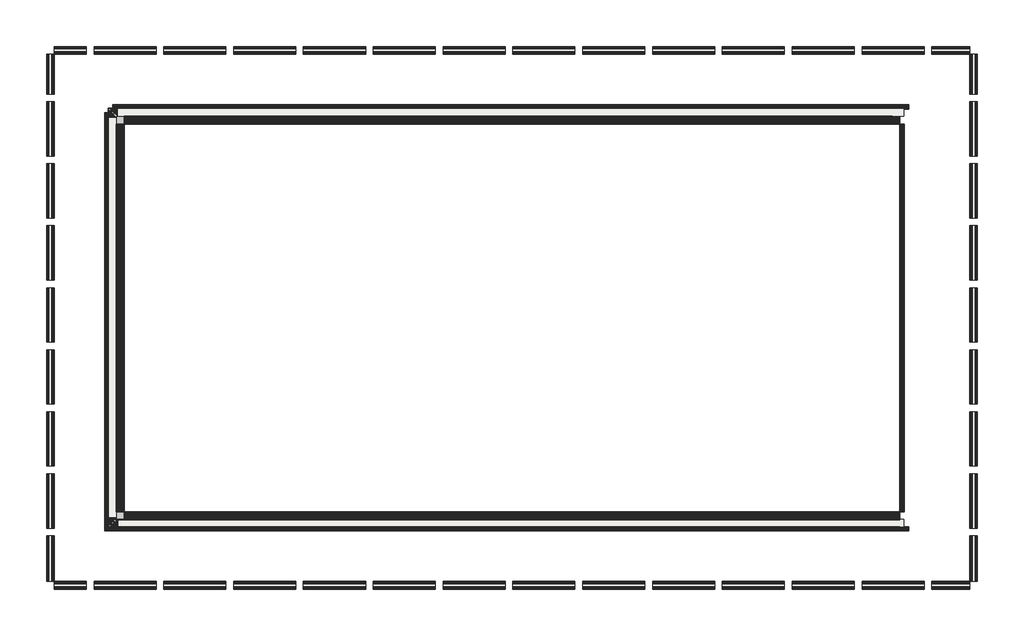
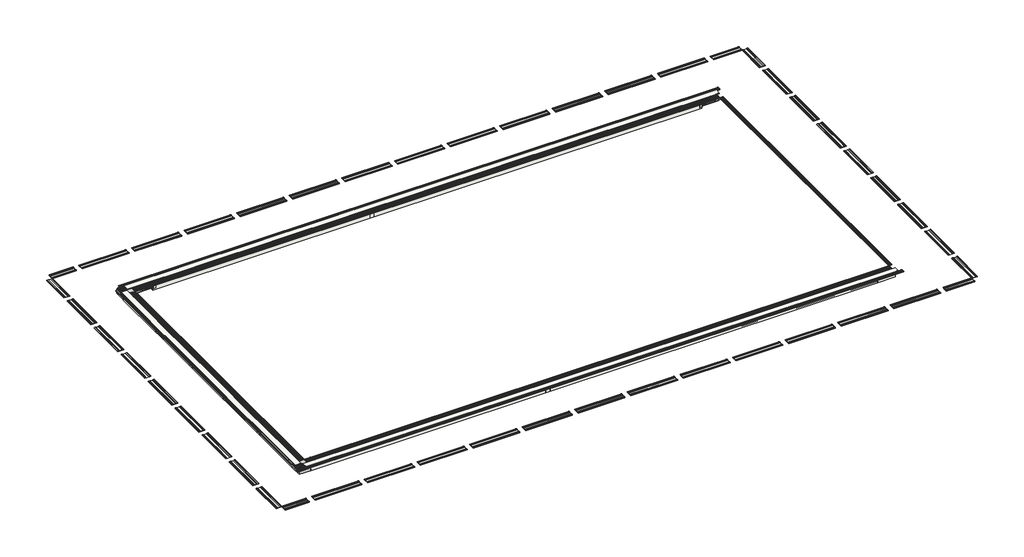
# One storey, incomplete: 90 slabs, 4 proxies, 1 wall.
"""IFC4 building model written with IfcOpenShell, lengths in millimetres."""

from ifc_helpers import new_model, si_unit, origin, place, context, project, spatial, transform, mapped, element, save
from components import bloque_rs_903_88942921, rejilla_245_e2_blanco_63b6c073, slab_5d975f14, slab_9dd5c64a, slab_b96c67a0, slab_85165e39, slab_fda458ed, slab_f72ae3bc, slab_7b5f9839, slab_f85bad20, slab_419fe0f5, slab_ef830f01, slab_a76cdf63, slab_26251be1, slab_fd03eb48, slab_de1c2f08, slab_c3a39430, slab_c57b6997, slab_c1fd4eab, bloque_rs_901_7b2d1af0, bloque_rs_901_6b5c8436, bloque_rs_901_a1e74918, bloque_rs_901_2c9cb21e, bloque_rs_901_685c77fb, bloque_rs_901_02d4d146, bloque_rs_901_d4c59469, bloque_rs_904_754e9b9e, bloque_rs_904_4dadfa85, bloque_rs_905_dbcc2ae5, bloque_rs_905_b3f01087, bloque_rs_905_97b4824b, pieza_035_aqua_azul_anti_slip_d3a0b70b, pieza_035_aqua_azul_anti_slip_5118b2d5, pieza_035_aqua_azul_anti_slip_5bffa563, pieza_035_aqua_azul_anti_slip_d555d483, pieza_035_aqua_azul_anti_slip_abb4f9d1, pieza_035_aqua_azul_anti_slip_982134b4, pieza_035_aqua_azul_anti_slip_ff070b21, pieza_035_aqua_azul_anti_slip_8805e9d7, pieza_216_aqua_azul_anti_slip_ab0e75ff, pieza_216_aqua_azul_anti_slip_05ee5f36, pieza_216_aqua_azul_anti_slip_e681261f, pieza_216_aqua_azul_anti_slip_625501cd, pieza_216_aqua_azul_anti_slip_bd8dcea7, pieza_216_aqua_azul_anti_slip_7a651725, pieza_216_aqua_azul_anti_slip_0b623ba6, pieza_216_aqua_azul_anti_slip_9a172c5e, pieza_216_aqua_azul_anti_slip_6dfd3447, rejilla_245_r2_blanco_6a6c3202, rejilla_245_r2_blanco_9ac73279, rejilla_245_r2_blanco_04bee66e, wall_3aab93d8

model = new_model("IFC4")

# Units and contexts
model_context = context("Model", 3, world=origin())
ifc_project = project(units=[si_unit("LENGTHUNIT", "METRE", prefix="MILLI")], contexts=[model_context])

# Site, building, storey
site = spatial("IfcSite", under=ifc_project)
building = spatial("IfcBuilding", under=site)
storey = spatial("IfcBuildingStorey", under=building, Name="2_N S9", Elevation=-229.4)

# Proxies
placement = place(None, origin())
bloque_rs_903_shape = bloque_rs_903_88942921(model_context)
element("IfcBuildingElementProxy", 1, Name="ROSA GRES_RS 903 : Bloque RS 903", ObjectType="ROSA GRES_RS 903 : Bloque RS 903", at=placement, inside=storey, context=model_context, shape_type="MappedRepresentation", body=[
    mapped(bloque_rs_903_shape, transform((7429.3982091, -25689.3970423, -229.4), x_axis=(0.0, 1.0, 0.0), y_axis=(-1.0, 0.0, 0.0), z_axis=(0.0, 0.0, 1.0))),
])
element("IfcBuildingElementProxy", 2, Name="ROSA GRES_RS 903 : Bloque RS 903", ObjectType="ROSA GRES_RS 903 : Bloque RS 903", at=placement, inside=storey, context=model_context, shape_type="MappedRepresentation", body=[
    mapped(bloque_rs_903_shape, transform((7429.3982091, -38189.4694962, -229.4), x_axis=(-1.0, 0.0, 0.0), y_axis=(0.0, -1.0, 0.0), z_axis=(0.0, 0.0, 1.0))),
])
rejilla_245_e2_blanco_shape = rejilla_245_e2_blanco_63b6c073(model_context)
element("IfcBuildingElementProxy", 3, Name="ROSA GRES_245 E2 : Rejilla 245 E2_Blanco", ObjectType="ROSA GRES_245 E2 : Rejilla 245 E2_Blanco", at=placement, inside=storey, context=model_context, shape_type="MappedRepresentation", body=[
    mapped(rejilla_245_e2_blanco_shape, transform((7177.3435564, -38441.5241489, -229.4), x_axis=(-1.0, 0.0, 0.0), y_axis=(0.0, -1.0, 0.0), z_axis=(0.0, 0.0, 1.0))),
])
element("IfcBuildingElementProxy", 4, Name="ROSA GRES_245 E2 : Rejilla 245 E2_Blanco", ObjectType="ROSA GRES_245 E2 : Rejilla 245 E2_Blanco", at=placement, inside=storey, context=model_context, shape_type="MappedRepresentation", body=[
    mapped(rejilla_245_e2_blanco_shape, transform((7177.3435564, -25437.3423895, -229.4), x_axis=(0.0, 1.0, 0.0), y_axis=(-1.0, 0.0, 0.0), z_axis=(0.0, 0.0, 1.0))),
])

# Slabs
slab_shape = slab_5d975f14(model_context)
element("IfcSlab", 5, ObjectType="ROSA GRES_013 : Pieza 013_Aqua_Marino_Liso", at=placement, inside=storey, context=model_context, shape_type="MappedRepresentation", body=[
    mapped(slab_shape, transform((8178.6514198, -25681.4332692, -162.4), x_axis=(0.0, 0.0, 1.0), y_axis=(-1.0, 0.0, 0.0), z_axis=(0.0, -1.0, 0.0))),
])
element("IfcSlab", 6, ObjectType="ROSA GRES_013 : Pieza 013_Aqua_Marino_Liso", at=placement, inside=storey, context=model_context, shape_type="MappedRepresentation", body=[
    mapped(slab_shape, transform((31680.2174523, -25681.4332692, -37.4), x_axis=(0.0, 0.0, -1.0), y_axis=(1.0, 0.0, 0.0), z_axis=(0.0, -1.0, 0.0))),
])
slab_2_shape = slab_9dd5c64a(model_context)
element("IfcSlab", 7, ObjectType="ROSA GRES_013 : Pieza 013_Aqua_Marino_Liso", at=placement, inside=storey, context=model_context, shape_type="MappedRepresentation", body=[
    mapped(slab_2_shape, transform((31680.2174523, -25676.2845423, -102.4133834), x_axis=(1.0, 0.0, 0.0), y_axis=(0.0, 2.08080350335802e-12, 1.0), z_axis=(0.0, -1.0, 2.08080350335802e-12))),
])
slab_3_shape = slab_b96c67a0(model_context)
element("IfcSlab", 8, ObjectType="ROSA GRES_013 : Pieza 013_Aqua_Marino_Liso", at=placement, inside=storey, context=model_context, shape_type="MappedRepresentation", body=[
    mapped(slab_3_shape, transform((31680.2174523, -38197.4332692, -37.4), x_axis=(0.0, 0.0, -1.0), y_axis=(-1.0, 0.0, 0.0), z_axis=(0.0, 1.0, 0.0))),
])
slab_4_shape = slab_85165e39(model_context)
element("IfcSlab", 9, ObjectType="ROSA GRES_013 : Pieza 013_Aqua_Marino_Liso", at=placement, inside=storey, context=model_context, shape_type="MappedRepresentation", body=[
    mapped(slab_4_shape, transform((32429.434436, -38202.2694962, -101.5), x_axis=(-1.0, 0.0, 0.0), y_axis=(0.0, -2.080803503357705e-12, 1.0), z_axis=(0.0, 1.0, 2.080803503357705e-12))),
])
slab_5_shape = slab_fda458ed(model_context)
element("IfcSlab", 10, ObjectType="ROSA GRES_204 : Pieza 204_Indugres_Indubeige_Tecno", at=placement, inside=storey, context=model_context, shape_type="MappedRepresentation", body=[
    mapped(slab_5_shape, transform((17709.4610246, -23437.5814211, -24.5), x_axis=(1.0, 0.0, 0.0), y_axis=(0.0, 1.0, 0.0), z_axis=(0.0, 0.0, 1.0))),
])
element("IfcSlab", 11, ObjectType="ROSA GRES_204 : Pieza 204_Indugres_Indubeige_Tecno", at=placement, inside=storey, context=model_context, shape_type="MappedRepresentation", body=[
    mapped(slab_5_shape, transform((15459.4610246, -23437.5814211, -24.5), x_axis=(1.0, 0.0, 0.0), y_axis=(0.0, 1.0, 0.0), z_axis=(0.0, 0.0, 1.0))),
])
element("IfcSlab", 12, ObjectType="ROSA GRES_204 : Pieza 204_Indugres_Indubeige_Tecno", at=placement, inside=storey, context=model_context, shape_type="MappedRepresentation", body=[
    mapped(slab_5_shape, transform((13209.4610246, -23437.5814211, -24.5), x_axis=(1.0, 0.0, 0.0), y_axis=(0.0, 1.0, 0.0), z_axis=(0.0, 0.0, 1.0))),
])
element("IfcSlab", 13, ObjectType="ROSA GRES_204 : Pieza 204_Indugres_Indubeige_Tecno", at=placement, inside=storey, context=model_context, shape_type="MappedRepresentation", body=[
    mapped(slab_5_shape, transform((10959.4610246, -23437.5814211, -24.5), x_axis=(1.0, 0.0, 0.0), y_axis=(0.0, 1.0, 0.0), z_axis=(0.0, 0.0, 1.0))),
])
element("IfcSlab", 14, ObjectType="ROSA GRES_204 : Pieza 204_Indugres_Indubeige_Tecno", at=placement, inside=storey, context=model_context, shape_type="MappedRepresentation", body=[
    mapped(slab_5_shape, transform((8709.4610246, -23437.5814211, -24.5), x_axis=(1.0, 0.0, 0.0), y_axis=(0.0, 1.0, 0.0), z_axis=(0.0, 0.0, 1.0))),
])
element("IfcSlab", 15, ObjectType="ROSA GRES_204 : Pieza 204_Indugres_Indubeige_Tecno", at=placement, inside=storey, context=model_context, shape_type="MappedRepresentation", body=[
    mapped(slab_5_shape, transform((6459.4610246, -23437.5814211, -24.5), x_axis=(1.0, 0.0, 0.0), y_axis=(0.0, 1.0, 0.0), z_axis=(0.0, 0.0, 1.0))),
])
element("IfcSlab", 16, ObjectType="ROSA GRES_204 : Pieza 204_Indugres_Indubeige_Tecno", at=placement, inside=storey, context=model_context, shape_type="MappedRepresentation", body=[
    mapped(slab_5_shape, transform((21959.4610246, -40441.2851174, -24.5), x_axis=(-1.0, 0.0, 0.0), y_axis=(0.0, -1.0, 0.0), z_axis=(0.0, 0.0, 1.0))),
])
element("IfcSlab", 17, ObjectType="ROSA GRES_204 : Pieza 204_Indugres_Indubeige_Tecno", at=placement, inside=storey, context=model_context, shape_type="MappedRepresentation", body=[
    mapped(slab_5_shape, transform((24209.4610246, -40441.2851174, -24.5), x_axis=(-1.0, 0.0, 0.0), y_axis=(0.0, -1.0, 0.0), z_axis=(0.0, 0.0, 1.0))),
])
element("IfcSlab", 18, ObjectType="ROSA GRES_204 : Pieza 204_Indugres_Indubeige_Tecno", at=placement, inside=storey, context=model_context, shape_type="MappedRepresentation", body=[
    mapped(slab_5_shape, transform((26459.4610246, -40441.2851174, -24.5), x_axis=(-1.0, 0.0, 0.0), y_axis=(0.0, -1.0, 0.0), z_axis=(0.0, 0.0, 1.0))),
])
element("IfcSlab", 19, ObjectType="ROSA GRES_204 : Pieza 204_Indugres_Indubeige_Tecno", at=placement, inside=storey, context=model_context, shape_type="MappedRepresentation", body=[
    mapped(slab_5_shape, transform((28709.4610246, -40441.2851174, -24.5), x_axis=(-1.0, 0.0, 0.0), y_axis=(0.0, -1.0, 0.0), z_axis=(0.0, 0.0, 1.0))),
])
element("IfcSlab", 20, ObjectType="ROSA GRES_204 : Pieza 204_Indugres_Indubeige_Tecno", at=placement, inside=storey, context=model_context, shape_type="MappedRepresentation", body=[
    mapped(slab_5_shape, transform((30959.4610246, -40441.2851174, -24.5), x_axis=(-1.0, 0.0, 0.0), y_axis=(0.0, -1.0, 0.0), z_axis=(0.0, 0.0, 1.0))),
])
element("IfcSlab", 21, ObjectType="ROSA GRES_204 : Pieza 204_Indugres_Indubeige_Tecno", at=placement, inside=storey, context=model_context, shape_type="MappedRepresentation", body=[
    mapped(slab_5_shape, transform((33209.4610246, -40441.2851174, -24.5), x_axis=(-1.0, 0.0, 0.0), y_axis=(0.0, -1.0, 0.0), z_axis=(0.0, 0.0, 1.0))),
])
slab_6_shape = slab_f72ae3bc(model_context)
element("IfcSlab", 22, ObjectType="ROSA GRES_204 : Pieza 204_Indugres_Indubeige_Tecno", at=placement, inside=storey, context=model_context, shape_type="MappedRepresentation", body=[
    mapped(slab_6_shape, transform((6209.4610246, -23437.5814211, -24.5), x_axis=(-1.0, 0.0, 0.0), y_axis=(0.0, -1.0, 0.0), z_axis=(0.0, 0.0, 1.0))),
])
slab_7_shape = slab_7b5f9839(model_context)
element("IfcSlab", 23, ObjectType="ROSA GRES_204 : Pieza 204_Indugres_Indubeige_Tecno", at=placement, inside=storey, context=model_context, shape_type="MappedRepresentation", body=[
    mapped(slab_7_shape, transform((21959.4610246, -23437.5814211, -24.5), x_axis=(-1.0, 0.0, 0.0), y_axis=(0.0, -1.0, 0.0), z_axis=(0.0, 0.0, 1.0))),
])
element("IfcSlab", 24, ObjectType="ROSA GRES_204 : Pieza 204_Indugres_Indubeige_Tecno", at=placement, inside=storey, context=model_context, shape_type="MappedRepresentation", body=[
    mapped(slab_7_shape, transform((24209.4610246, -23437.5814211, -24.5), x_axis=(-1.0, 0.0, 0.0), y_axis=(0.0, -1.0, 0.0), z_axis=(0.0, 0.0, 1.0))),
])
element("IfcSlab", 25, ObjectType="ROSA GRES_204 : Pieza 204_Indugres_Indubeige_Tecno", at=placement, inside=storey, context=model_context, shape_type="MappedRepresentation", body=[
    mapped(slab_7_shape, transform((26459.4610246, -23437.5814211, -24.5), x_axis=(-1.0, 0.0, 0.0), y_axis=(0.0, -1.0, 0.0), z_axis=(0.0, 0.0, 1.0))),
])
element("IfcSlab", 26, ObjectType="ROSA GRES_204 : Pieza 204_Indugres_Indubeige_Tecno", at=placement, inside=storey, context=model_context, shape_type="MappedRepresentation", body=[
    mapped(slab_7_shape, transform((28709.4610246, -23437.5814211, -24.5), x_axis=(-1.0, 0.0, 0.0), y_axis=(0.0, -1.0, 0.0), z_axis=(0.0, 0.0, 1.0))),
])
element("IfcSlab", 27, ObjectType="ROSA GRES_204 : Pieza 204_Indugres_Indubeige_Tecno", at=placement, inside=storey, context=model_context, shape_type="MappedRepresentation", body=[
    mapped(slab_7_shape, transform((30959.4610246, -23437.5814211, -24.5), x_axis=(-1.0, 0.0, 0.0), y_axis=(0.0, -1.0, 0.0), z_axis=(0.0, 0.0, 1.0))),
])
element("IfcSlab", 28, ObjectType="ROSA GRES_204 : Pieza 204_Indugres_Indubeige_Tecno", at=placement, inside=storey, context=model_context, shape_type="MappedRepresentation", body=[
    mapped(slab_7_shape, transform((33209.4610246, -23437.5814211, -24.5), x_axis=(-1.0, 0.0, 0.0), y_axis=(0.0, -1.0, 0.0), z_axis=(0.0, 0.0, 1.0))),
])
element("IfcSlab", 29, ObjectType="ROSA GRES_204 : Pieza 204_Indugres_Indubeige_Tecno", at=placement, inside=storey, context=model_context, shape_type="MappedRepresentation", body=[
    mapped(slab_7_shape, transform((17709.4610246, -40441.2851174, -24.5), x_axis=(1.0, 0.0, 0.0), y_axis=(0.0, 1.0, 0.0), z_axis=(0.0, 0.0, 1.0))),
])
element("IfcSlab", 30, ObjectType="ROSA GRES_204 : Pieza 204_Indugres_Indubeige_Tecno", at=placement, inside=storey, context=model_context, shape_type="MappedRepresentation", body=[
    mapped(slab_7_shape, transform((15459.4610246, -40441.2851174, -24.5), x_axis=(1.0, 0.0, 0.0), y_axis=(0.0, 1.0, 0.0), z_axis=(0.0, 0.0, 1.0))),
])
element("IfcSlab", 31, ObjectType="ROSA GRES_204 : Pieza 204_Indugres_Indubeige_Tecno", at=placement, inside=storey, context=model_context, shape_type="MappedRepresentation", body=[
    mapped(slab_7_shape, transform((13209.4610246, -40441.2851174, -24.5), x_axis=(1.0, 0.0, 0.0), y_axis=(0.0, 1.0, 0.0), z_axis=(0.0, 0.0, 1.0))),
])
element("IfcSlab", 32, ObjectType="ROSA GRES_204 : Pieza 204_Indugres_Indubeige_Tecno", at=placement, inside=storey, context=model_context, shape_type="MappedRepresentation", body=[
    mapped(slab_7_shape, transform((10959.4610246, -40441.2851174, -24.5), x_axis=(1.0, 0.0, 0.0), y_axis=(0.0, 1.0, 0.0), z_axis=(0.0, 0.0, 1.0))),
])
element("IfcSlab", 33, ObjectType="ROSA GRES_204 : Pieza 204_Indugres_Indubeige_Tecno", at=placement, inside=storey, context=model_context, shape_type="MappedRepresentation", body=[
    mapped(slab_7_shape, transform((8709.4610246, -40441.2851174, -24.5), x_axis=(1.0, 0.0, 0.0), y_axis=(0.0, 1.0, 0.0), z_axis=(0.0, 0.0, 1.0))),
])
element("IfcSlab", 34, ObjectType="ROSA GRES_204 : Pieza 204_Indugres_Indubeige_Tecno", at=placement, inside=storey, context=model_context, shape_type="MappedRepresentation", body=[
    mapped(slab_7_shape, transform((6459.4610246, -40441.2851174, -24.5), x_axis=(1.0, 0.0, 0.0), y_axis=(0.0, 1.0, 0.0), z_axis=(0.0, 0.0, 1.0))),
])
slab_8_shape = slab_f85bad20(model_context)
element("IfcSlab", 35, ObjectType="ROSA GRES_204 : Pieza 204_Indugres_Indubeige_Tecno", at=placement, inside=storey, context=model_context, shape_type="MappedRepresentation", body=[
    mapped(slab_8_shape, transform((6209.4610246, -40441.2851174, -24.5), x_axis=(-1.0, 0.0, 0.0), y_axis=(0.0, -1.0, 0.0), z_axis=(0.0, 0.0, 1.0))),
])
slab_9_shape = slab_419fe0f5(model_context)
element("IfcSlab", 36, ObjectType="ROSA GRES_204 : Pieza 204_Indugres_Indubeige_Tecno", at=placement, inside=storey, context=model_context, shape_type="MappedRepresentation", body=[
    mapped(slab_9_shape, transform((33459.4610246, -23437.5814211, -24.5), x_axis=(1.0, 0.0, 0.0), y_axis=(0.0, 1.0, 0.0), z_axis=(0.0, 0.0, 1.0))),
])
slab_10_shape = slab_ef830f01(model_context)
element("IfcSlab", 37, ObjectType="ROSA GRES_204 : Pieza 204_Indugres_Indubeige_Tecno", at=placement, inside=storey, context=model_context, shape_type="MappedRepresentation", body=[
    mapped(slab_10_shape, transform((33459.4610246, -40441.2851174, -24.5), x_axis=(1.0, 0.0, 0.0), y_axis=(0.0, 1.0, 0.0), z_axis=(0.0, 0.0, 1.0))),
])
slab_11_shape = slab_a76cdf63(model_context)
element("IfcSlab", 38, ObjectType="ROSA GRES_204 : Pieza 204_Indugres_Indubeige_Tecno", at=placement, inside=storey, context=model_context, shape_type="MappedRepresentation", body=[
    mapped(slab_11_shape, transform((34679.434436, -30969.4598578, -24.5), x_axis=(0.0, -1.0, 0.0), y_axis=(1.0, 0.0, 0.0), z_axis=(0.0, 0.0, 1.0))),
])
element("IfcSlab", 39, ObjectType="ROSA GRES_204 : Pieza 204_Indugres_Indubeige_Tecno", at=placement, inside=storey, context=model_context, shape_type="MappedRepresentation", body=[
    mapped(slab_11_shape, transform((34679.434436, -32969.4598578, -24.5), x_axis=(0.0, -1.0, 0.0), y_axis=(1.0, 0.0, 0.0), z_axis=(0.0, 0.0, 1.0))),
])
element("IfcSlab", 40, ObjectType="ROSA GRES_204 : Pieza 204_Indugres_Indubeige_Tecno", at=placement, inside=storey, context=model_context, shape_type="MappedRepresentation", body=[
    mapped(slab_11_shape, transform((34679.434436, -34969.4598578, -24.5), x_axis=(0.0, -1.0, 0.0), y_axis=(1.0, 0.0, 0.0), z_axis=(0.0, 0.0, 1.0))),
])
element("IfcSlab", 41, ObjectType="ROSA GRES_204 : Pieza 204_Indugres_Indubeige_Tecno", at=placement, inside=storey, context=model_context, shape_type="MappedRepresentation", body=[
    mapped(slab_11_shape, transform((34679.434436, -36969.4598578, -24.5), x_axis=(0.0, -1.0, 0.0), y_axis=(1.0, 0.0, 0.0), z_axis=(0.0, 0.0, 1.0))),
])
element("IfcSlab", 42, ObjectType="ROSA GRES_204 : Pieza 204_Indugres_Indubeige_Tecno", at=placement, inside=storey, context=model_context, shape_type="MappedRepresentation", body=[
    mapped(slab_11_shape, transform((5179.434436, -30719.4598578, -24.5), x_axis=(0.0, 1.0, 0.0), y_axis=(-1.0, 0.0, 0.0), z_axis=(0.0, 0.0, 1.0))),
])
element("IfcSlab", 43, ObjectType="ROSA GRES_204 : Pieza 204_Indugres_Indubeige_Tecno", at=placement, inside=storey, context=model_context, shape_type="MappedRepresentation", body=[
    mapped(slab_11_shape, transform((5179.434436, -28719.4598578, -24.5), x_axis=(0.0, 1.0, 0.0), y_axis=(-1.0, 0.0, 0.0), z_axis=(0.0, 0.0, 1.0))),
])
element("IfcSlab", 44, ObjectType="ROSA GRES_204 : Pieza 204_Indugres_Indubeige_Tecno", at=placement, inside=storey, context=model_context, shape_type="MappedRepresentation", body=[
    mapped(slab_11_shape, transform((5179.434436, -26719.4598578, -24.5), x_axis=(0.0, 1.0, 0.0), y_axis=(-1.0, 0.0, 0.0), z_axis=(0.0, 0.0, 1.0))),
])
slab_12_shape = slab_26251be1(model_context)
element("IfcSlab", 45, ObjectType="ROSA GRES_204 : Pieza 204_Indugres_Indubeige_Tecno", at=placement, inside=storey, context=model_context, shape_type="MappedRepresentation", body=[
    mapped(slab_12_shape, transform((34679.434436, -30719.4598578, -24.5), x_axis=(0.0, 1.0, 0.0), y_axis=(-1.0, 0.0, 0.0), z_axis=(0.0, 0.0, 1.0))),
])
element("IfcSlab", 46, ObjectType="ROSA GRES_204 : Pieza 204_Indugres_Indubeige_Tecno", at=placement, inside=storey, context=model_context, shape_type="MappedRepresentation", body=[
    mapped(slab_12_shape, transform((34679.434436, -28719.4598578, -24.5), x_axis=(0.0, 1.0, 0.0), y_axis=(-1.0, 0.0, 0.0), z_axis=(0.0, 0.0, 1.0))),
])
element("IfcSlab", 47, ObjectType="ROSA GRES_204 : Pieza 204_Indugres_Indubeige_Tecno", at=placement, inside=storey, context=model_context, shape_type="MappedRepresentation", body=[
    mapped(slab_12_shape, transform((34679.434436, -26719.4598578, -24.5), x_axis=(0.0, 1.0, 0.0), y_axis=(-1.0, 0.0, 0.0), z_axis=(0.0, 0.0, 1.0))),
])
element("IfcSlab", 48, ObjectType="ROSA GRES_204 : Pieza 204_Indugres_Indubeige_Tecno", at=placement, inside=storey, context=model_context, shape_type="MappedRepresentation", body=[
    mapped(slab_12_shape, transform((5179.434436, -30969.4598578, -24.5), x_axis=(0.0, -1.0, 0.0), y_axis=(1.0, 0.0, 0.0), z_axis=(0.0, 0.0, 1.0))),
])
element("IfcSlab", 49, ObjectType="ROSA GRES_204 : Pieza 204_Indugres_Indubeige_Tecno", at=placement, inside=storey, context=model_context, shape_type="MappedRepresentation", body=[
    mapped(slab_12_shape, transform((5179.434436, -32969.4598578, -24.5), x_axis=(0.0, -1.0, 0.0), y_axis=(1.0, 0.0, 0.0), z_axis=(0.0, 0.0, 1.0))),
])
element("IfcSlab", 50, ObjectType="ROSA GRES_204 : Pieza 204_Indugres_Indubeige_Tecno", at=placement, inside=storey, context=model_context, shape_type="MappedRepresentation", body=[
    mapped(slab_12_shape, transform((5179.434436, -34969.4598578, -24.5), x_axis=(0.0, -1.0, 0.0), y_axis=(1.0, 0.0, 0.0), z_axis=(0.0, 0.0, 1.0))),
])
element("IfcSlab", 51, ObjectType="ROSA GRES_204 : Pieza 204_Indugres_Indubeige_Tecno", at=placement, inside=storey, context=model_context, shape_type="MappedRepresentation", body=[
    mapped(slab_12_shape, transform((5179.434436, -36969.4598578, -24.5), x_axis=(0.0, -1.0, 0.0), y_axis=(1.0, 0.0, 0.0), z_axis=(0.0, 0.0, 1.0))),
])
slab_13_shape = slab_fd03eb48(model_context)
element("IfcSlab", 52, ObjectType="ROSA GRES_013 : Pieza 013_Aqua_Marino_Liso", at=placement, inside=storey, context=model_context, shape_type="MappedRepresentation", body=[
    mapped(slab_13_shape, transform((7429.612996, -25676.5970423, -101.5360103), x_axis=(1.0, 0.0, 0.0), y_axis=(0.0, 2.08080350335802e-12, 1.0), z_axis=(0.0, -1.0, 2.08080350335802e-12))),
])
slab_14_shape = slab_de1c2f08(model_context)
element("IfcSlab", 53, ObjectType="ROSA GRES_204 : Pieza 204_Indugres_Indubeige_Tecno", at=placement, inside=storey, context=model_context, shape_type="MappedRepresentation", body=[
    mapped(slab_14_shape, transform((34679.434436, -38969.4598578, -24.5), x_axis=(0.0, -1.0, 0.0), y_axis=(1.0, 0.0, 0.0), z_axis=(0.0, 0.0, 1.0))),
])
slab_15_shape = slab_c3a39430(model_context)
element("IfcSlab", 54, ObjectType="ROSA GRES_204 : Pieza 204_Indugres_Indubeige_Tecno", at=placement, inside=storey, context=model_context, shape_type="MappedRepresentation", body=[
    mapped(slab_15_shape, transform((5179.434436, -38969.4598578, -24.5), x_axis=(0.0, -1.0, 0.0), y_axis=(1.0, 0.0, 0.0), z_axis=(0.0, 0.0, 1.0))),
])
slab_16_shape = slab_c57b6997(model_context)
element("IfcSlab", 55, ObjectType="ROSA GRES_204 : Pieza 204_Indugres_Indubeige_Tecno", at=placement, inside=storey, context=model_context, shape_type="MappedRepresentation", body=[
    mapped(slab_16_shape, transform((5179.434436, -24719.4598578, -24.5), x_axis=(0.0, 1.0, 0.0), y_axis=(-1.0, 0.0, 0.0), z_axis=(0.0, 0.0, 1.0))),
])
slab_17_shape = slab_c1fd4eab(model_context)
element("IfcSlab", 56, ObjectType="ROSA GRES_204 : Pieza 204_Indugres_Indubeige_Tecno", at=placement, inside=storey, context=model_context, shape_type="MappedRepresentation", body=[
    mapped(slab_17_shape, transform((34679.434436, -24719.4598578, -24.5), x_axis=(0.0, 1.0, 0.0), y_axis=(-1.0, 0.0, 0.0), z_axis=(0.0, 0.0, 1.0))),
])
bloque_rs_901_shape = bloque_rs_901_7b2d1af0(model_context)
element("IfcSlab", 57, ObjectType="ROSA GRES_RS 901 : Bloque_RS 901", at=placement, inside=storey, context=model_context, shape_type="MappedRepresentation", body=[
    mapped(bloque_rs_901_shape, transform((7429.434436, -28286.9332692, -229.4), x_axis=(0.0, -1.0, 0.0), y_axis=(1.0, 0.0, 0.0), z_axis=(0.0, 0.0, 1.0))),
])
element("IfcSlab", 58, ObjectType="ROSA GRES_RS 901 : Bloque_RS 901", at=placement, inside=storey, context=model_context, shape_type="MappedRepresentation", body=[
    mapped(bloque_rs_901_shape, transform((7429.434436, -30786.9332692, -229.4), x_axis=(0.0, -1.0, 0.0), y_axis=(1.0, 0.0, 0.0), z_axis=(0.0, 0.0, 1.0))),
])
element("IfcSlab", 59, ObjectType="ROSA GRES_RS 901 : Bloque_RS 901", at=placement, inside=storey, context=model_context, shape_type="MappedRepresentation", body=[
    mapped(bloque_rs_901_shape, transform((7429.434436, -33286.9332692, -229.4), x_axis=(0.0, -1.0, 0.0), y_axis=(1.0, 0.0, 0.0), z_axis=(0.0, 0.0, 1.0))),
])
bloque_rs_901_2_shape = bloque_rs_901_6b5c8436(model_context)
element("IfcSlab", 60, ObjectType="ROSA GRES_RS 901 : Bloque_RS 901", at=placement, inside=storey, context=model_context, shape_type="MappedRepresentation", body=[
    mapped(bloque_rs_901_2_shape, transform((7429.434436, -35786.9332692, -229.4), x_axis=(0.0, -1.0, 0.0), y_axis=(1.0, 0.0, 0.0), z_axis=(0.0, 0.0, 1.0))),
])
bloque_rs_901_3_shape = bloque_rs_901_a1e74918(model_context)
element("IfcSlab", 61, ObjectType="ROSA GRES_RS 901 : Bloque_RS 901", at=placement, inside=storey, context=model_context, shape_type="MappedRepresentation", body=[
    mapped(bloque_rs_901_3_shape, transform((7429.434436, -28091.9332692, -229.4), x_axis=(0.0, 1.0, 0.0), y_axis=(-1.0, 0.0, 0.0), z_axis=(0.0, 0.0, 1.0))),
])
bloque_rs_901_4_shape = bloque_rs_901_2c9cb21e(model_context)
element("IfcSlab", 62, ObjectType="ROSA GRES_RS 901 : Bloque_RS 901", at=placement, inside=storey, context=model_context, shape_type="MappedRepresentation", body=[
    mapped(bloque_rs_901_4_shape, transform((8189.4078475, -25689.4332692, -229.4), x_axis=(1.0, 0.0, 0.0), y_axis=(0.0, 1.0, 0.0), z_axis=(0.0, 0.0, 1.0))),
])
bloque_rs_901_5_shape = bloque_rs_901_685c77fb(model_context)
element("IfcSlab", 63, ObjectType="ROSA GRES_RS 901 : Bloque_RS 901", at=placement, inside=storey, context=model_context, shape_type="MappedRepresentation", body=[
    mapped(bloque_rs_901_5_shape, transform((17659.4790429, -25689.4332692, -229.4), x_axis=(1.0, 0.0, 0.0), y_axis=(0.0, 1.0, 0.0), z_axis=(0.0, 0.0, 1.0))),
])
bloque_rs_901_6_shape = bloque_rs_901_02d4d146(model_context)
element("IfcSlab", 64, ObjectType="ROSA GRES_RS 901 : Bloque_RS 901", at=placement, inside=storey, context=model_context, shape_type="MappedRepresentation", body=[
    mapped(bloque_rs_901_6_shape, transform((7429.434436, -38189.4332692, -229.4), x_axis=(1.0, 0.0, 0.0), y_axis=(0.0, 1.0, 0.0), z_axis=(0.0, 0.0, 1.0))),
])
bloque_rs_901_7_shape = bloque_rs_901_d4c59469(model_context)
element("IfcSlab", 65, ObjectType="ROSA GRES_RS 901 : Bloque_RS 901", at=placement, inside=storey, context=model_context, shape_type="MappedRepresentation", body=[
    mapped(bloque_rs_901_7_shape, transform((17659.4790429, -38189.4332692, -229.4), x_axis=(1.0, 0.0, 0.0), y_axis=(0.0, 1.0, 0.0), z_axis=(0.0, 0.0, 1.0))),
])
bloque_rs_904_shape = bloque_rs_904_754e9b9e(model_context)
element("IfcSlab", 66, ObjectType="ROSA GRES_RS 904 : Bloque_RS 904", at=placement, inside=storey, context=model_context, shape_type="MappedRepresentation", body=[
    mapped(bloque_rs_904_shape, transform((7429.434436, -28091.9332692, -229.4), x_axis=(0.0, -1.0, 0.0), y_axis=(1.0, 0.0, 0.0), z_axis=(0.0, 0.0, 1.0))),
])
element("IfcSlab", 67, ObjectType="ROSA GRES_RS 904 : Bloque_RS 904", at=placement, inside=storey, context=model_context, shape_type="MappedRepresentation", body=[
    mapped(bloque_rs_904_shape, transform((7429.434436, -30591.9332692, -229.4), x_axis=(0.0, -1.0, 0.0), y_axis=(1.0, 0.0, 0.0), z_axis=(0.0, 0.0, 1.0))),
])
element("IfcSlab", 68, ObjectType="ROSA GRES_RS 904 : Bloque_RS 904", at=placement, inside=storey, context=model_context, shape_type="MappedRepresentation", body=[
    mapped(bloque_rs_904_shape, transform((7429.434436, -33091.9332692, -229.4), x_axis=(0.0, -1.0, 0.0), y_axis=(1.0, 0.0, 0.0), z_axis=(0.0, 0.0, 1.0))),
])
element("IfcSlab", 69, ObjectType="ROSA GRES_RS 904 : Bloque_RS 904", at=placement, inside=storey, context=model_context, shape_type="MappedRepresentation", body=[
    mapped(bloque_rs_904_shape, transform((7429.434436, -35591.9332692, -229.4), x_axis=(0.0, -1.0, 0.0), y_axis=(1.0, 0.0, 0.0), z_axis=(0.0, 0.0, 1.0))),
])
element("IfcSlab", 70, ObjectType="ROSA GRES_RS 904 : Bloque_RS 904", at=placement, inside=storey, context=model_context, shape_type="MappedRepresentation", body=[
    mapped(bloque_rs_904_shape, transform((17659.4790429, -25689.4332692, -229.4), x_axis=(-1.0, 0.0, 0.0), y_axis=(0.0, -1.0, 0.0), z_axis=(0.0, 0.0, 1.0))),
])
bloque_rs_904_2_shape = bloque_rs_904_4dadfa85(model_context)
element("IfcSlab", 71, ObjectType="ROSA GRES_RS 904 : Bloque_RS 904", at=placement, inside=storey, context=model_context, shape_type="MappedRepresentation", body=[
    mapped(bloque_rs_904_2_shape, transform((17659.4790429, -38189.4332692, -229.4), x_axis=(-1.0, 0.0, 0.0), y_axis=(0.0, -1.0, 0.0), z_axis=(0.0, 0.0, 1.0))),
])
bloque_rs_905_shape = bloque_rs_905_dbcc2ae5(model_context)
element("IfcSlab", 72, ObjectType="ROSA GRES_RS 905 : Bloque_RS 905", at=placement, inside=storey, context=model_context, shape_type="MappedRepresentation", body=[
    mapped(bloque_rs_905_shape, transform((31663.1355715, -25689.4332692, -229.4), x_axis=(1.0, 0.0, 0.0), y_axis=(0.0, 1.0, 0.0), z_axis=(0.0, 0.0, 1.0))),
])
bloque_rs_905_2_shape = bloque_rs_905_b3f01087(model_context)
element("IfcSlab", 73, ObjectType="ROSA GRES_RS 905 : Bloque_RS 905", at=placement, inside=storey, context=model_context, shape_type="MappedRepresentation", body=[
    mapped(bloque_rs_905_2_shape, transform((31663.1355715, -38189.4332692, -229.4), x_axis=(1.0, 0.0, 0.0), y_axis=(0.0, 1.0, 0.0), z_axis=(0.0, 0.0, 1.0))),
])
bloque_rs_905_3_shape = bloque_rs_905_97b4824b(model_context)
element("IfcSlab", 74, ObjectType="ROSA GRES_RS 905 : Bloque_RS 905", at=placement, inside=storey, context=model_context, shape_type="MappedRepresentation", body=[
    mapped(bloque_rs_905_3_shape, transform((7429.434436, -25689.4332692, -229.4), x_axis=(1.0, 0.0, 0.0), y_axis=(0.0, 1.0, 0.0), z_axis=(0.0, 0.0, 1.0))),
])
pieza_035_aqua_azul_anti_slip_shape = pieza_035_aqua_azul_anti_slip_d3a0b70b(model_context)
element("IfcSlab", 75, ObjectType="ROSA GRES_035 (corte) : Pieza 035_Aqua_Azul_Anti-Slip", at=placement, inside=storey, context=model_context, shape_type="MappedRepresentation", body=[
    mapped(pieza_035_aqua_azul_anti_slip_shape, transform((7055.2523334, -38673.6153718, -38.0725093), x_axis=(-1.0, 0.0, 0.0), y_axis=(0.0, -1.0, 0.0), z_axis=(0.0, 0.0, 1.0))),
])
pieza_035_aqua_azul_anti_slip_2_shape = pieza_035_aqua_azul_anti_slip_5118b2d5(model_context)
element("IfcSlab", 76, ObjectType="ROSA GRES_035 (corte) : Pieza 035_Aqua_Azul_Anti-Slip", at=placement, inside=storey, context=model_context, shape_type="MappedRepresentation", body=[
    mapped(pieza_035_aqua_azul_anti_slip_2_shape, transform((6945.7523334, -38563.6153718, -38.0725093), x_axis=(0.0, -1.0, 0.0), y_axis=(1.0, 0.0, 0.0), z_axis=(0.0, 0.0, 1.0))),
])
pieza_035_aqua_azul_anti_slip_3_shape = pieza_035_aqua_azul_anti_slip_5bffa563(model_context)
element("IfcSlab", 77, ObjectType="ROSA GRES_035 : Pieza 035_Aqua_Azul_Anti-Slip", at=placement, inside=storey, context=model_context, shape_type="MappedRepresentation", body=[
    mapped(pieza_035_aqua_azul_anti_slip_3_shape, transform((7429.434436, -37969.4598578, -229.4), x_axis=(0.0, -1.0, 0.0), y_axis=(1.0, 0.0, 0.0), z_axis=(0.0, 0.0, 1.0))),
])
pieza_035_aqua_azul_anti_slip_4_shape = pieza_035_aqua_azul_anti_slip_d555d483(model_context)
element("IfcSlab", 78, ObjectType="ROSA GRES_035 : Pieza 035_Aqua_Azul_Anti-Slip", at=placement, inside=storey, context=model_context, shape_type="MappedRepresentation", body=[
    mapped(pieza_035_aqua_azul_anti_slip_4_shape, transform((7429.434436, -25844.4598578, -229.4), x_axis=(0.0, -1.0, 0.0), y_axis=(1.0, 0.0, 0.0), z_axis=(0.0, 0.0, 1.0))),
])
pieza_035_aqua_azul_anti_slip_5_shape = pieza_035_aqua_azul_anti_slip_abb4f9d1(model_context)
element("IfcSlab", 79, ObjectType="ROSA GRES_035 : Pieza 035_Aqua_Azul_Anti-Slip", at=placement, inside=storey, context=model_context, shape_type="MappedRepresentation", body=[
    mapped(pieza_035_aqua_azul_anti_slip_5_shape, transform((7429.434436, -25314.4598578, -229.4), x_axis=(0.0, -1.0, 0.0), y_axis=(1.0, 0.0, 0.0), z_axis=(0.0, 0.0, 1.0))),
])
pieza_035_aqua_azul_anti_slip_6_shape = pieza_035_aqua_azul_anti_slip_982134b4(model_context)
element("IfcSlab", 80, ObjectType="ROSA GRES_035 : Pieza 035_Aqua_Azul_Anti-Slip", at=placement, inside=storey, context=model_context, shape_type="MappedRepresentation", body=[
    mapped(pieza_035_aqua_azul_anti_slip_6_shape, transform((32709.4610246, -25689.4332692, -229.4), x_axis=(-1.0, 0.0, 0.0), y_axis=(0.0, -1.0, 0.0), z_axis=(0.0, 0.0, 1.0))),
])
pieza_035_aqua_azul_anti_slip_7_shape = pieza_035_aqua_azul_anti_slip_ff070b21(model_context)
element("IfcSlab", 81, ObjectType="ROSA GRES_035 : Pieza 035_Aqua_Azul_Anti-Slip", at=placement, inside=storey, context=model_context, shape_type="MappedRepresentation", body=[
    mapped(pieza_035_aqua_azul_anti_slip_7_shape, transform((7055.2523334, -38189.4332692, -229.4), x_axis=(1.0, 0.0, 0.0), y_axis=(0.0, 1.0, 0.0), z_axis=(0.0, 0.0, 1.0))),
])
pieza_035_aqua_azul_anti_slip_8_shape = pieza_035_aqua_azul_anti_slip_8805e9d7(model_context)
element("IfcSlab", 82, ObjectType="ROSA GRES_035 : Pieza 035_Aqua_Azul_Anti-Slip", at=placement, inside=storey, context=model_context, shape_type="MappedRepresentation", body=[
    mapped(pieza_035_aqua_azul_anti_slip_8_shape, transform((7209.4610246, -38189.4332692, -229.4), x_axis=(1.0, 0.0, 0.0), y_axis=(0.0, 1.0, 0.0), z_axis=(0.0, 0.0, 1.0))),
])
pieza_216_aqua_azul_anti_slip_shape = pieza_216_aqua_azul_anti_slip_ab0e75ff(model_context)
element("IfcSlab", 83, ObjectType="ROSA GRES_216 : Pieza 216_Aqua_Azul_Anti-Slip", at=placement, inside=storey, context=model_context, shape_type="MappedRepresentation", body=[
    mapped(pieza_216_aqua_azul_anti_slip_shape, transform((7429.434436, -25969.4332692, -229.4), x_axis=(0.0, -1.0, 0.0), y_axis=(1.0, 0.0, 0.0), z_axis=(0.0, 0.0, 1.0))),
])
pieza_216_aqua_azul_anti_slip_2_shape = pieza_216_aqua_azul_anti_slip_05ee5f36(model_context)
element("IfcSlab", 84, ObjectType="ROSA GRES_216 : Pieza 216_Aqua_Azul_Anti-Slip", at=placement, inside=storey, context=model_context, shape_type="MappedRepresentation", body=[
    mapped(pieza_216_aqua_azul_anti_slip_2_shape, transform((7429.434436, -25969.4332692, -229.4), x_axis=(0.0, 1.0, 0.0), y_axis=(-1.0, 0.0, 0.0), z_axis=(0.0, 0.0, 1.0))),
])
pieza_216_aqua_azul_anti_slip_3_shape = pieza_216_aqua_azul_anti_slip_e681261f(model_context)
element("IfcSlab", 85, ObjectType="ROSA GRES_216 : Pieza 216_Aqua_Azul_Anti-Slip", at=placement, inside=storey, context=model_context, shape_type="MappedRepresentation", body=[
    mapped(pieza_216_aqua_azul_anti_slip_3_shape, transform((7709.4610246, -25689.4332692, -229.4), x_axis=(-1.0, 0.0, 0.0), y_axis=(0.0, -1.0, 0.0), z_axis=(0.0, 0.0, 1.0))),
])
pieza_216_aqua_azul_anti_slip_4_shape = pieza_216_aqua_azul_anti_slip_625501cd(model_context)
element("IfcSlab", 86, ObjectType="ROSA GRES_216 : Pieza 216_Aqua_Azul_Anti-Slip", at=placement, inside=storey, context=model_context, shape_type="MappedRepresentation", body=[
    mapped(pieza_216_aqua_azul_anti_slip_4_shape, transform((7709.4610246, -38189.4332692, -229.4), x_axis=(-1.0, 0.0, 0.0), y_axis=(0.0, -1.0, 0.0), z_axis=(0.0, 0.0, 1.0))),
])
pieza_216_aqua_azul_anti_slip_5_shape = pieza_216_aqua_azul_anti_slip_bd8dcea7(model_context)
element("IfcSlab", 87, ObjectType="ROSA GRES_216 : Pieza 216_Aqua_Azul_Anti-Slip", at=placement, inside=storey, context=model_context, shape_type="MappedRepresentation", body=[
    mapped(pieza_216_aqua_azul_anti_slip_5_shape, transform((7709.4610246, -25689.4332692, -229.4), x_axis=(1.0, 0.0, 0.0), y_axis=(0.0, 1.0, 0.0), z_axis=(0.0, 0.0, 1.0))),
])
pieza_216_aqua_azul_anti_slip_6_shape = pieza_216_aqua_azul_anti_slip_7a651725(model_context)
element("IfcSlab", 88, ObjectType="ROSA GRES_216 : Pieza 216_Aqua_Azul_Anti-Slip", at=placement, inside=storey, context=model_context, shape_type="MappedRepresentation", body=[
    mapped(pieza_216_aqua_azul_anti_slip_6_shape, transform((32190.434436, -25689.4332692, -229.4), x_axis=(1.0, 0.0, 0.0), y_axis=(0.0, 1.0, 0.0), z_axis=(0.0, 0.0, 1.0))),
])
pieza_216_aqua_azul_anti_slip_7_shape = pieza_216_aqua_azul_anti_slip_0b623ba6(model_context)
element("IfcSlab", 89, ObjectType="ROSA GRES_216 : Pieza 216_Aqua_Azul_Anti-Slip", at=placement, inside=storey, context=model_context, shape_type="MappedRepresentation", body=[
    mapped(pieza_216_aqua_azul_anti_slip_7_shape, transform((7709.4610246, -38189.4332692, -229.4), x_axis=(1.0, 0.0, 0.0), y_axis=(0.0, 1.0, 0.0), z_axis=(0.0, 0.0, 1.0))),
])
pieza_216_aqua_azul_anti_slip_8_shape = pieza_216_aqua_azul_anti_slip_9a172c5e(model_context)
element("IfcSlab", 90, ObjectType="ROSA GRES_216 (profundidad) : Pieza 216_Aqua_Azul_Anti-Slip", at=placement, inside=storey, context=model_context, shape_type="MappedRepresentation", body=[
    mapped(pieza_216_aqua_azul_anti_slip_8_shape, transform((32429.434436, -25969.4598578, -229.4), x_axis=(0.0, -1.0, 0.0), y_axis=(1.0, 0.0, 0.0), z_axis=(0.0, 0.0, 1.0))),
])
pieza_216_aqua_azul_anti_slip_9_shape = pieza_216_aqua_azul_anti_slip_6dfd3447(model_context)
element("IfcSlab", 91, ObjectType="ROSA GRES_216 (profundidad) : Pieza 216_Aqua_Azul_Anti-Slip", at=placement, inside=storey, context=model_context, shape_type="MappedRepresentation", body=[
    mapped(pieza_216_aqua_azul_anti_slip_9_shape, transform((32429.434436, -25969.4598578, -229.4), x_axis=(0.0, 1.0, 0.0), y_axis=(-1.0, 0.0, 0.0), z_axis=(0.0, 0.0, 1.0))),
])
rejilla_245_r2_blanco_shape = rejilla_245_r2_blanco_6a6c3202(model_context)
element("IfcSlab", 92, ObjectType="ROSA GRES_245 R2 : Rejilla 245 R2_Blanco", at=placement, inside=storey, context=model_context, shape_type="MappedRepresentation", body=[
    mapped(rejilla_245_r2_blanco_shape, transform((7227.3435564, -25806.9332692, -229.4), x_axis=(1.0, 0.0, 0.0), y_axis=(0.0, 1.0, 0.0), z_axis=(0.0, 0.0, 1.0))),
])
rejilla_245_r2_blanco_2_shape = rejilla_245_r2_blanco_9ac73279(model_context)
element("IfcSlab", 93, ObjectType="ROSA GRES_245 R2 : Rejilla 245 R2_Blanco", at=placement, inside=storey, context=model_context, shape_type="MappedRepresentation", body=[
    mapped(rejilla_245_r2_blanco_2_shape, transform((7227.3435564, -38071.9332692, -229.4), x_axis=(1.0, 0.0, 0.0), y_axis=(0.0, 1.0, 0.0), z_axis=(0.0, 0.0, 1.0))),
])
rejilla_245_r2_blanco_3_shape = rejilla_245_r2_blanco_04bee66e(model_context)
element("IfcSlab", 94, ObjectType="ROSA GRES_245 R2 : Rejilla 245 R2_Blanco", at=placement, inside=storey, context=model_context, shape_type="MappedRepresentation", body=[
    mapped(rejilla_245_r2_blanco_3_shape, transform((7546.934436, -25487.3423895, -229.4), x_axis=(0.0, -1.0, 0.0), y_axis=(1.0, 0.0, 0.0), z_axis=(0.0, 0.0, 1.0))),
])

# Wall
wall_shape = wall_3aab93d8(model_context)
element("IfcWall", 95, ObjectType="M_insitu 122 G1 Marino Liso : M_insitu 122 G1 Marino Liso", at=placement, inside=storey, context=model_context, shape_type="MappedRepresentation", body=[
    mapped(wall_shape, transform((0.0, 0.0, 0.0), x_axis=(1.0, 0.0, 0.0), y_axis=(0.0, 1.0, 0.0), z_axis=(0.0, 0.0, 1.0))),
])

save(model, "model.ifc")
